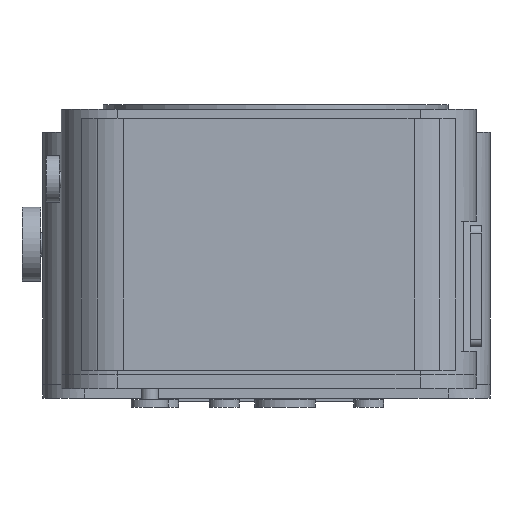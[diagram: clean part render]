
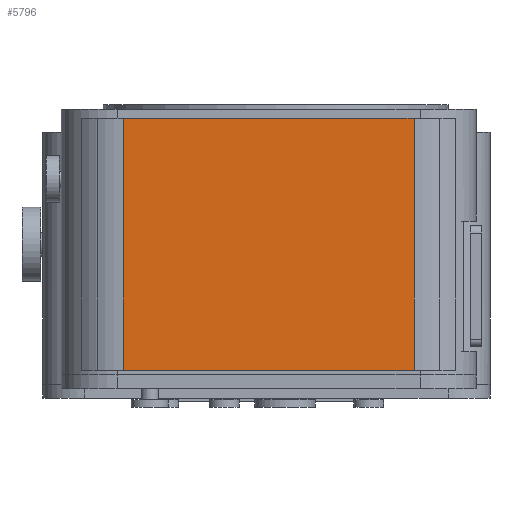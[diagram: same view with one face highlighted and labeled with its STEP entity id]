
A CAD part, left-side view. The second image highlights one B-rep face of the part: STEP entity #5796.
In plain terms, the highlighted planar face has unit normal (-1, 0, 0).
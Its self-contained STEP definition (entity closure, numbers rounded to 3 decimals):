
#5262 = PLANE('',#5263);
#5263 = AXIS2_PLACEMENT_3D('',#5264,#5265,#5266);
#5264 = CARTESIAN_POINT('',(-41.9,-42.,15.));
#5265 = DIRECTION('',(0.,0.,1.));
#5266 = DIRECTION('',(1.,0.,0.));
#5324 = VERTEX_POINT('',#5325);
#5325 = CARTESIAN_POINT('',(-84.1,-29.7,15.));
#5340 = CYLINDRICAL_SURFACE('',#5341,12.3);
#5341 = AXIS2_PLACEMENT_3D('',#5342,#5343,#5344);
#5342 = CARTESIAN_POINT('',(-71.8,-29.7,-39.));
#5343 = DIRECTION('',(-0.,-0.,1.));
#5344 = DIRECTION('',(-1.,-0.,-0.));
#5352 = EDGE_CURVE('',#5324,#5353,#5355,.T.);
#5353 = VERTEX_POINT('',#5354);
#5354 = CARTESIAN_POINT('',(-84.1,32.7,15.));
#5355 = SURFACE_CURVE('',#5356,(#5360,#5367),.PCURVE_S1.);
#5356 = LINE('',#5357,#5358);
#5357 = CARTESIAN_POINT('',(-84.1,-42.,15.));
#5358 = VECTOR('',#5359,1.);
#5359 = DIRECTION('',(-0.,1.,0.));
#5360 = PCURVE('',#5262,#5361);
#5361 = DEFINITIONAL_REPRESENTATION('',(#5362),#5366);
#5362 = LINE('',#5363,#5364);
#5363 = CARTESIAN_POINT('',(-42.2,0.));
#5364 = VECTOR('',#5365,1.);
#5365 = DIRECTION('',(-0.,1.));
#5366 = ( GEOMETRIC_REPRESENTATION_CONTEXT(2) 
PARAMETRIC_REPRESENTATION_CONTEXT() REPRESENTATION_CONTEXT('2D SPACE',''
  ) );
#5367 = PCURVE('',#5368,#5373);
#5368 = PLANE('',#5369);
#5369 = AXIS2_PLACEMENT_3D('',#5370,#5371,#5372);
#5370 = CARTESIAN_POINT('',(-84.1,-42.,-39.));
#5371 = DIRECTION('',(-1.,-0.,0.));
#5372 = DIRECTION('',(0.,0.,-1.));
#5373 = DEFINITIONAL_REPRESENTATION('',(#5374),#5378);
#5374 = LINE('',#5375,#5376);
#5375 = CARTESIAN_POINT('',(-54.,-0.));
#5376 = VECTOR('',#5377,1.);
#5377 = DIRECTION('',(-0.,-1.));
#5378 = ( GEOMETRIC_REPRESENTATION_CONTEXT(2) 
PARAMETRIC_REPRESENTATION_CONTEXT() REPRESENTATION_CONTEXT('2D SPACE',''
  ) );
#5401 = CYLINDRICAL_SURFACE('',#5402,12.3);
#5402 = AXIS2_PLACEMENT_3D('',#5403,#5404,#5405);
#5403 = CARTESIAN_POINT('',(-71.8,32.7,-39.));
#5404 = DIRECTION('',(-0.,-0.,1.));
#5405 = DIRECTION('',(-1.,-0.,-0.));
#5548 = PLANE('',#5549);
#5549 = AXIS2_PLACEMENT_3D('',#5550,#5551,#5552);
#5550 = CARTESIAN_POINT('',(-41.9,-42.,-39.));
#5551 = DIRECTION('',(0.,0.,1.));
#5552 = DIRECTION('',(1.,0.,0.));
#5746 = EDGE_CURVE('',#5747,#5353,#5749,.T.);
#5747 = VERTEX_POINT('',#5748);
#5748 = CARTESIAN_POINT('',(-84.1,32.7,-39.));
#5749 = SURFACE_CURVE('',#5750,(#5754,#5761),.PCURVE_S1.);
#5750 = LINE('',#5751,#5752);
#5751 = CARTESIAN_POINT('',(-84.1,32.7,-39.));
#5752 = VECTOR('',#5753,1.);
#5753 = DIRECTION('',(-0.,-0.,1.));
#5754 = PCURVE('',#5401,#5755);
#5755 = DEFINITIONAL_REPRESENTATION('',(#5756),#5760);
#5756 = LINE('',#5757,#5758);
#5757 = CARTESIAN_POINT('',(-0.,0.));
#5758 = VECTOR('',#5759,1.);
#5759 = DIRECTION('',(-0.,1.));
#5760 = ( GEOMETRIC_REPRESENTATION_CONTEXT(2) 
PARAMETRIC_REPRESENTATION_CONTEXT() REPRESENTATION_CONTEXT('2D SPACE',''
  ) );
#5761 = PCURVE('',#5368,#5762);
#5762 = DEFINITIONAL_REPRESENTATION('',(#5763),#5767);
#5763 = LINE('',#5764,#5765);
#5764 = CARTESIAN_POINT('',(-0.,-74.7));
#5765 = VECTOR('',#5766,1.);
#5766 = DIRECTION('',(-1.,-0.));
#5767 = ( GEOMETRIC_REPRESENTATION_CONTEXT(2) 
PARAMETRIC_REPRESENTATION_CONTEXT() REPRESENTATION_CONTEXT('2D SPACE',''
  ) );
#5796 = ADVANCED_FACE('',(#5797),#5368,.T.);
#5797 = FACE_BOUND('',#5798,.F.);
#5798 = EDGE_LOOP('',(#5799,#5800,#5823,#5844));
#5799 = ORIENTED_EDGE('',*,*,#5352,.F.);
#5800 = ORIENTED_EDGE('',*,*,#5801,.F.);
#5801 = EDGE_CURVE('',#5802,#5324,#5804,.T.);
#5802 = VERTEX_POINT('',#5803);
#5803 = CARTESIAN_POINT('',(-84.1,-29.7,-39.));
#5804 = SURFACE_CURVE('',#5805,(#5809,#5816),.PCURVE_S1.);
#5805 = LINE('',#5806,#5807);
#5806 = CARTESIAN_POINT('',(-84.1,-29.7,-39.));
#5807 = VECTOR('',#5808,1.);
#5808 = DIRECTION('',(-0.,-0.,1.));
#5809 = PCURVE('',#5368,#5810);
#5810 = DEFINITIONAL_REPRESENTATION('',(#5811),#5815);
#5811 = LINE('',#5812,#5813);
#5812 = CARTESIAN_POINT('',(-0.,-12.3));
#5813 = VECTOR('',#5814,1.);
#5814 = DIRECTION('',(-1.,-0.));
#5815 = ( GEOMETRIC_REPRESENTATION_CONTEXT(2) 
PARAMETRIC_REPRESENTATION_CONTEXT() REPRESENTATION_CONTEXT('2D SPACE',''
  ) );
#5816 = PCURVE('',#5340,#5817);
#5817 = DEFINITIONAL_REPRESENTATION('',(#5818),#5822);
#5818 = LINE('',#5819,#5820);
#5819 = CARTESIAN_POINT('',(0.,0.));
#5820 = VECTOR('',#5821,1.);
#5821 = DIRECTION('',(0.,1.));
#5822 = ( GEOMETRIC_REPRESENTATION_CONTEXT(2) 
PARAMETRIC_REPRESENTATION_CONTEXT() REPRESENTATION_CONTEXT('2D SPACE',''
  ) );
#5823 = ORIENTED_EDGE('',*,*,#5824,.T.);
#5824 = EDGE_CURVE('',#5802,#5747,#5825,.T.);
#5825 = SURFACE_CURVE('',#5826,(#5830,#5837),.PCURVE_S1.);
#5826 = LINE('',#5827,#5828);
#5827 = CARTESIAN_POINT('',(-84.1,-42.,-39.));
#5828 = VECTOR('',#5829,1.);
#5829 = DIRECTION('',(-0.,1.,0.));
#5830 = PCURVE('',#5368,#5831);
#5831 = DEFINITIONAL_REPRESENTATION('',(#5832),#5836);
#5832 = LINE('',#5833,#5834);
#5833 = CARTESIAN_POINT('',(-0.,-0.));
#5834 = VECTOR('',#5835,1.);
#5835 = DIRECTION('',(-0.,-1.));
#5836 = ( GEOMETRIC_REPRESENTATION_CONTEXT(2) 
PARAMETRIC_REPRESENTATION_CONTEXT() REPRESENTATION_CONTEXT('2D SPACE',''
  ) );
#5837 = PCURVE('',#5548,#5838);
#5838 = DEFINITIONAL_REPRESENTATION('',(#5839),#5843);
#5839 = LINE('',#5840,#5841);
#5840 = CARTESIAN_POINT('',(-42.2,0.));
#5841 = VECTOR('',#5842,1.);
#5842 = DIRECTION('',(-0.,1.));
#5843 = ( GEOMETRIC_REPRESENTATION_CONTEXT(2) 
PARAMETRIC_REPRESENTATION_CONTEXT() REPRESENTATION_CONTEXT('2D SPACE',''
  ) );
#5844 = ORIENTED_EDGE('',*,*,#5746,.T.);
